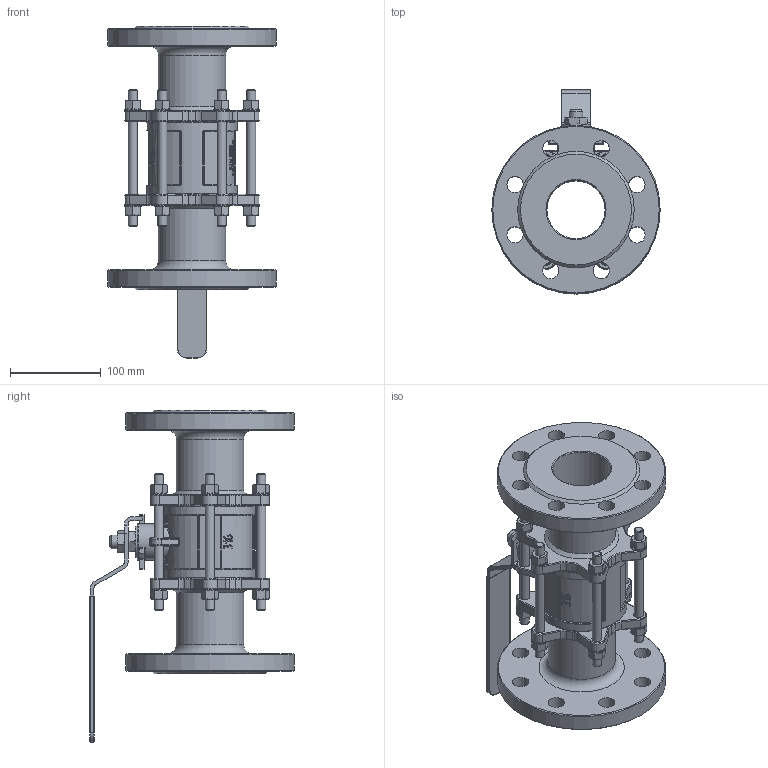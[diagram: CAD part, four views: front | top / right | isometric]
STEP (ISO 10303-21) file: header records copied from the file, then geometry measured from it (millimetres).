
FILE_DESCRIPTION(('STEP AP214'), '1');
FILE_NAME('BV3232P(3pc)-FP-F-H - Êðàí øàðîâîé DN.ru Äó65 Ðó25', '', ('UNSPECIFIED'), ('UNSPECIFIED'), 'C3D Converter', 'C3D Toolkit', '');
FILE_SCHEMA(('AUTOMOTIVE_DESIGN { 1 0 10303 214 3 1 1}'));
Length unit declared in the file: millimetre
Products named in the file (1): BV3232P(3pc)-FP-F-H
Bounding box: 185 x 224.5 x 365 mm (x, y, z)
Surface area: 335794.6 mm2 (no closed solid volume)
Topology: 0 solids, 6 shells, 1740 faces, 4367 edges, 2708 vertices
Faces by surface type: plane 551, extrusion 411, cylinder 339, cone 191, torus 151, bspline 65, sphere 32
Full cylindrical faces by diameter (mm): 10 x18, 10.5 x12, 11 x14, 15 x1, 18 x28, 34.454 x1, 40 x1, 64 x1, 74 x2, 100 x1, 185 x2
Entity records: 90206 total; most frequent: CARTESIAN_POINT 45481, ORIENTED_EDGE 8491, DIRECTION 7040, EDGE_CURVE 4257, VERTEX_POINT 2711, AXIS2_PLACEMENT_3D 2562, EDGE_LOOP 1996, VECTOR 1916
